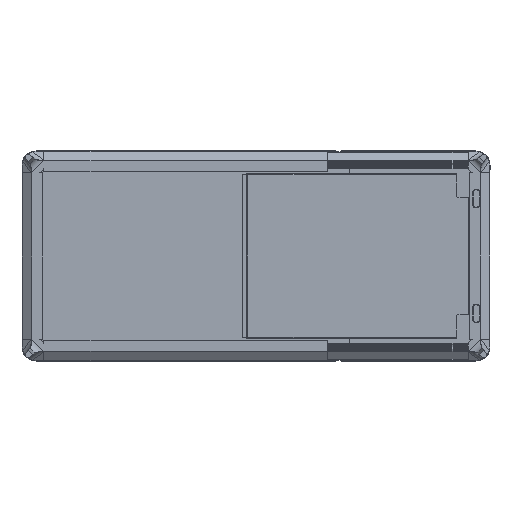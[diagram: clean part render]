
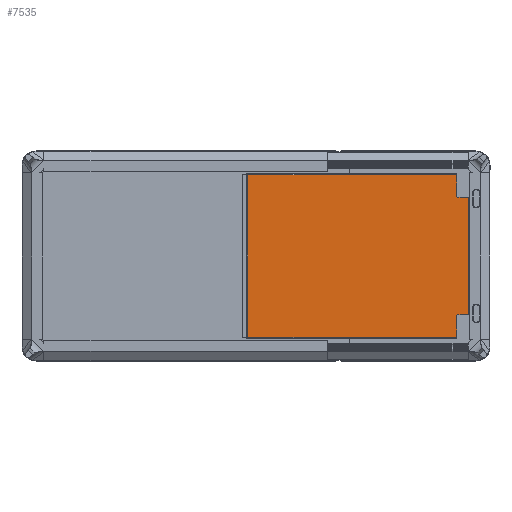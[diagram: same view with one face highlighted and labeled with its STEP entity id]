
A CAD part, front view. The second image highlights one B-rep face of the part: STEP entity #7535.
In plain terms, the highlighted planar face has unit normal (0, -1, 0).
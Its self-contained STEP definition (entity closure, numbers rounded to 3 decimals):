
#7107=CARTESIAN_POINT('',(1808.49,-22.101,-104.5));
#7108=VERTEX_POINT('',#7107);
#7115=CARTESIAN_POINT('',(1854.49,-22.101,-104.5));
#7116=VERTEX_POINT('',#7115);
#7117=CARTESIAN_POINT('',(1854.49,-22.101,-104.5));
#7118=DIRECTION('',(-1.0,0.0,0.0));
#7119=VECTOR('',#7118,46.);
#7120=LINE('',#7117,#7119);
#7121=EDGE_CURVE('',#7116,#7108,#7120,.T.);
#7201=CARTESIAN_POINT('',(1854.49,-22.101,-604.5));
#7202=VERTEX_POINT('',#7201);
#7210=CARTESIAN_POINT('',(1808.49,-22.101,-604.5));
#7211=VERTEX_POINT('',#7210);
#7212=CARTESIAN_POINT('',(1808.49,-22.101,-604.5));
#7213=DIRECTION('',(1.0,0.0,0.0));
#7214=VECTOR('',#7213,46.);
#7215=LINE('',#7212,#7214);
#7216=EDGE_CURVE('',#7211,#7202,#7215,.T.);
#7291=CARTESIAN_POINT('',(1803.49,-22.101,-609.5));
#7292=VERTEX_POINT('',#7291);
#7299=CARTESIAN_POINT('',(1803.49,-22.101,-700.5));
#7300=VERTEX_POINT('',#7299);
#7301=CARTESIAN_POINT('',(1803.49,-22.101,-700.5));
#7302=DIRECTION('',(0.0,0.0,1.0));
#7303=VECTOR('',#7302,91.);
#7304=LINE('',#7301,#7303);
#7305=EDGE_CURVE('',#7300,#7292,#7304,.T.);
#7347=CARTESIAN_POINT('',(1803.49,-22.101,-8.5));
#7348=VERTEX_POINT('',#7347);
#7356=CARTESIAN_POINT('',(1803.49,-22.101,-99.5));
#7357=VERTEX_POINT('',#7356);
#7358=CARTESIAN_POINT('',(1803.49,-22.101,-99.5));
#7359=DIRECTION('',(0.0,0.0,1.0));
#7360=VECTOR('',#7359,91.);
#7361=LINE('',#7358,#7360);
#7362=EDGE_CURVE('',#7357,#7348,#7361,.T.);
#7404=CARTESIAN_POINT('',(1808.49,-22.101,-99.5));
#7405=DIRECTION('',(0.,-1.,0.));
#7406=DIRECTION('',(-0.707,0.,-0.707));
#7407=AXIS2_PLACEMENT_3D('',#7404,#7405,#7406);
#7408=CIRCLE('',#7407,5.);
#7409=EDGE_CURVE('',#7357,#7108,#7408,.T.);
#7428=CARTESIAN_POINT('',(1808.49,-22.101,-609.5));
#7429=DIRECTION('',(0.,-1.,0.));
#7430=DIRECTION('',(-0.707,0.,0.707));
#7431=AXIS2_PLACEMENT_3D('',#7428,#7429,#7430);
#7432=CIRCLE('',#7431,5.);
#7433=EDGE_CURVE('',#7211,#7292,#7432,.T.);
#7446=CARTESIAN_POINT('',(912.49,-22.101,-8.5));
#7447=VERTEX_POINT('',#7446);
#7458=CARTESIAN_POINT('',(1803.49,-22.101,-8.5));
#7459=DIRECTION('',(-1.0,0.0,0.0));
#7460=VECTOR('',#7459,891.);
#7461=LINE('',#7458,#7460);
#7462=EDGE_CURVE('',#7348,#7447,#7461,.T.);
#7490=CARTESIAN_POINT('',(1854.49,-22.101,-604.5));
#7491=DIRECTION('',(0.0,0.0,1.0));
#7492=VECTOR('',#7491,500.);
#7493=LINE('',#7490,#7492);
#7494=EDGE_CURVE('',#7202,#7116,#7493,.T.);
#7506=CARTESIAN_POINT('',(1383.49,-22.101,-354.5));
#7507=DIRECTION('',(0.0,1.0,0.0));
#7508=DIRECTION('',(-1.0,0.0,0.0));
#7509=AXIS2_PLACEMENT_3D('',#7506,#7507,#7508);
#7510=PLANE('',#7509);
#7511=ORIENTED_EDGE('',*,*,#7121,.T.);
#7512=ORIENTED_EDGE('',*,*,#7409,.F.);
#7513=ORIENTED_EDGE('',*,*,#7362,.T.);
#7514=ORIENTED_EDGE('',*,*,#7462,.T.);
#7515=CARTESIAN_POINT('',(912.49,-22.101,-700.5));
#7516=VERTEX_POINT('',#7515);
#7517=CARTESIAN_POINT('',(912.49,-22.101,-8.5));
#7518=DIRECTION('',(0.0,0.0,-1.0));
#7519=VECTOR('',#7518,692.);
#7520=LINE('',#7517,#7519);
#7521=EDGE_CURVE('',#7447,#7516,#7520,.T.);
#7522=ORIENTED_EDGE('',*,*,#7521,.T.);
#7523=CARTESIAN_POINT('',(912.49,-22.101,-700.5));
#7524=DIRECTION('',(1.0,0.0,0.0));
#7525=VECTOR('',#7524,891.);
#7526=LINE('',#7523,#7525);
#7527=EDGE_CURVE('',#7516,#7300,#7526,.T.);
#7528=ORIENTED_EDGE('',*,*,#7527,.T.);
#7529=ORIENTED_EDGE('',*,*,#7305,.T.);
#7530=ORIENTED_EDGE('',*,*,#7433,.F.);
#7531=ORIENTED_EDGE('',*,*,#7216,.T.);
#7532=ORIENTED_EDGE('',*,*,#7494,.T.);
#7533=EDGE_LOOP('',(#7511,#7512,#7513,#7514,#7522,#7528,#7529,#7530,#7531,#7532));
#7534=FACE_OUTER_BOUND('',#7533,.T.);
#7535=ADVANCED_FACE('',(#7534),#7510,.F.);
